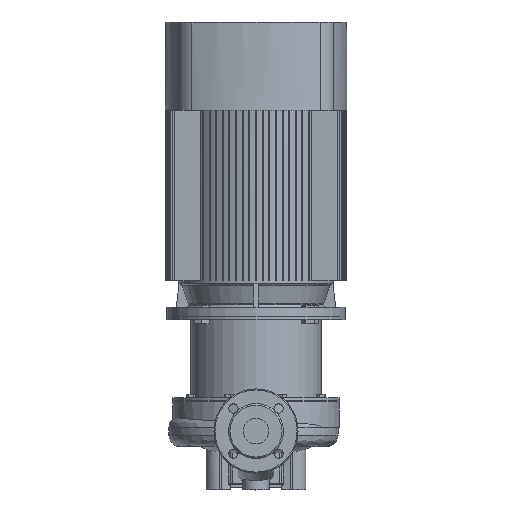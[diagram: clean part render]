
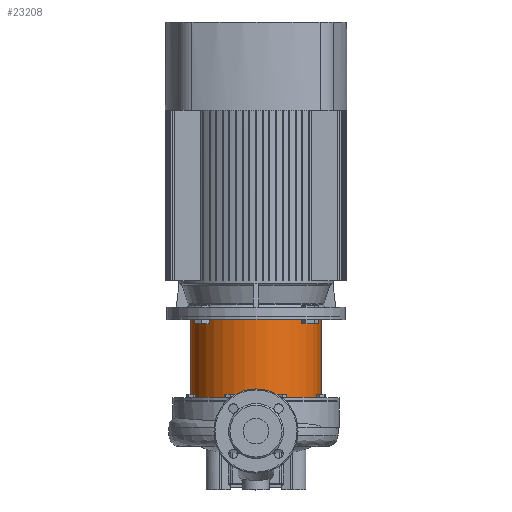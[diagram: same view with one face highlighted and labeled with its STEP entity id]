
A CAD part, top view. The second image highlights one B-rep face of the part: STEP entity #23208.
In plain terms, the highlighted cylindrical face has radius 128 mm (diameter 256 mm), a partial arc.
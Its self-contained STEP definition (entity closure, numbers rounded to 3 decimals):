
#1201 = CARTESIAN_POINT ( 'NONE',  ( 128., 0., 14.36 ) ) ;
#2693 = EDGE_LOOP ( 'NONE', ( #22341, #20386, #15410, #20179 ) ) ;
#3330 = DIRECTION ( 'NONE',  ( 0., 0., 1. ) ) ;
#4052 = CYLINDRICAL_SURFACE ( 'NONE', #18951, 128. ) ;
#4900 = CIRCLE ( 'NONE', #22203, 128. ) ;
#5645 = LINE ( 'NONE', #16615, #19763 ) ;
#7527 = DIRECTION ( 'NONE',  ( 0., 0., 1. ) ) ;
#8816 = VECTOR ( 'NONE', #3330, 1000. ) ;
#10030 = CARTESIAN_POINT ( 'NONE',  ( 0., 0., -6. ) ) ;
#10291 = VERTEX_POINT ( 'NONE', #19239 ) ;
#10704 = DIRECTION ( 'NONE',  ( 1., 0., 0. ) ) ;
#11329 = CIRCLE ( 'NONE', #11388, 128. ) ;
#11388 = AXIS2_PLACEMENT_3D ( 'NONE', #10030, #27143, #10704 ) ;
#12266 = VERTEX_POINT ( 'NONE', #13259 ) ;
#12326 = EDGE_CURVE ( 'NONE', #22409, #10291, #5645, .T. ) ;
#13259 = CARTESIAN_POINT ( 'NONE',  ( 128., 0., -159. ) ) ;
#13789 = DIRECTION ( 'NONE',  ( 1., 0., 0. ) ) ;
#14253 = VERTEX_POINT ( 'NONE', #20579 ) ;
#14278 = EDGE_CURVE ( 'NONE', #12266, #14253, #20722, .T. ) ;
#14612 = DIRECTION ( 'NONE',  ( 0., 0., 1. ) ) ;
#15410 = ORIENTED_EDGE ( 'NONE', *, *, #14278, .T. ) ;
#16615 = CARTESIAN_POINT ( 'NONE',  ( -128., 0., 14.36 ) ) ;
#16739 = DIRECTION ( 'NONE',  ( 1., 0., 0. ) ) ;
#17298 = CARTESIAN_POINT ( 'NONE',  ( 0., 0., 14.36 ) ) ;
#18219 = CARTESIAN_POINT ( 'NONE',  ( -128., 0., -159. ) ) ;
#18951 = AXIS2_PLACEMENT_3D ( 'NONE', #17298, #14612, #16739 ) ;
#19239 = CARTESIAN_POINT ( 'NONE',  ( -128., 0., -6. ) ) ;
#19763 = VECTOR ( 'NONE', #25742, 1000. ) ;
#20075 = EDGE_CURVE ( 'NONE', #22409, #12266, #4900, .T. ) ;
#20179 = ORIENTED_EDGE ( 'NONE', *, *, #26528, .F. ) ;
#20386 = ORIENTED_EDGE ( 'NONE', *, *, #20075, .T. ) ;
#20579 = CARTESIAN_POINT ( 'NONE',  ( 128., 0., -6. ) ) ;
#20722 = LINE ( 'NONE', #1201, #8816 ) ;
#22203 = AXIS2_PLACEMENT_3D ( 'NONE', #22907, #7527, #13789 ) ;
#22341 = ORIENTED_EDGE ( 'NONE', *, *, #12326, .F. ) ;
#22409 = VERTEX_POINT ( 'NONE', #18219 ) ;
#22907 = CARTESIAN_POINT ( 'NONE',  ( 0., 0., -159. ) ) ;
#23208 = ADVANCED_FACE ( 'NONE', ( #27724 ), #4052, .T. ) ;
#25742 = DIRECTION ( 'NONE',  ( 0., 0., 1. ) ) ;
#26528 = EDGE_CURVE ( 'NONE', #10291, #14253, #11329, .T. ) ;
#27143 = DIRECTION ( 'NONE',  ( 0., 0., 1. ) ) ;
#27724 = FACE_OUTER_BOUND ( 'NONE', #2693, .T. ) ;
